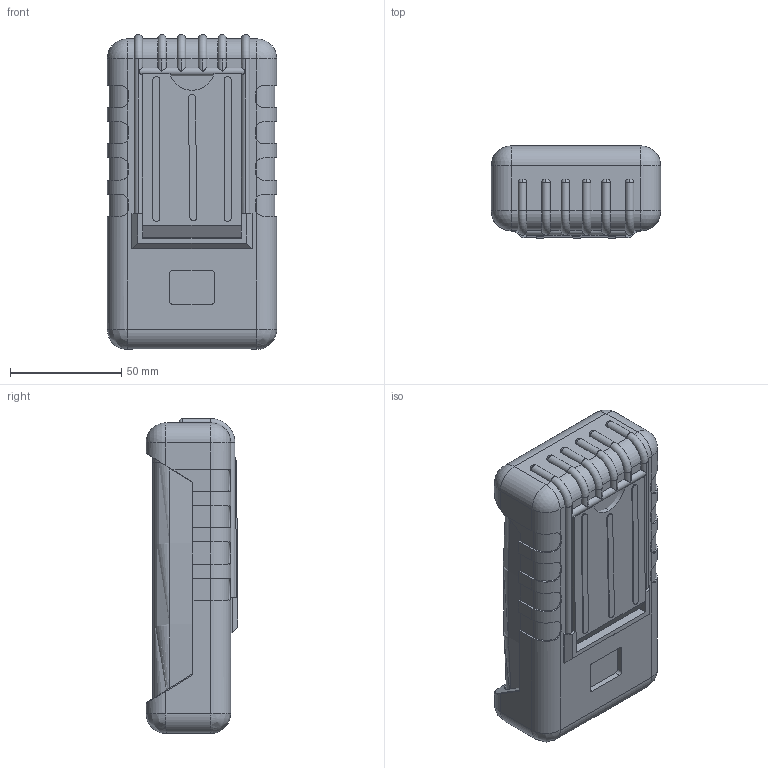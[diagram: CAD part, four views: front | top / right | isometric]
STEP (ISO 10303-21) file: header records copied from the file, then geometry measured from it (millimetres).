
FILE_DESCRIPTION (( 'STEP AP214' ), '1' );
FILE_NAME ('55-32-AC-R-BO.STEP', '2020-10-02T21:27:57', ( 'Rudy' ), ( '' ), 'SwSTEP 2.0', 'SolidWorks 2014', '' );
FILE_SCHEMA (( 'AUTOMOTIVE_DESIGN' ));
Length unit declared in the file: millimetre
Products named in the file (9): 55 Bottom AC; 55-32-AC-R-BO; 55 RBD Assy; 55 RBD Stand; 55 RBD; 55 PCB 2AA-9V ; 55 9V Door; 55 Panel Deep; 55 Top Deep
Assembly tree (8 placements, depth 3):
  55-32-AC-R-BO
    55 Bottom AC
    55 Top Deep
    55 Panel Deep
    55 9V Door
    55 PCB 2AA-9V 
    55 RBD Assy
      55 RBD
      55 RBD Stand
Bounding box: 76.2 x 41.38 x 141.6 mm (x, y, z)
Volume: 140051.9 mm3; surface area: 116741.7 mm2
Topology: 15 solids, 15 shells, 871 faces, 2286 edges, 1457 vertices
Faces by surface type: plane 396, cylinder 291, bspline 81, torus 71, cone 28, sphere 4
Entity records: 41205 total; most frequent: CARTESIAN_POINT 19801, ORIENTED_EDGE 4556, DIRECTION 4203, EDGE_CURVE 2278, AXIS2_PLACEMENT_3D 1504, VERTEX_POINT 1457, VECTOR 1195, LINE 1195
